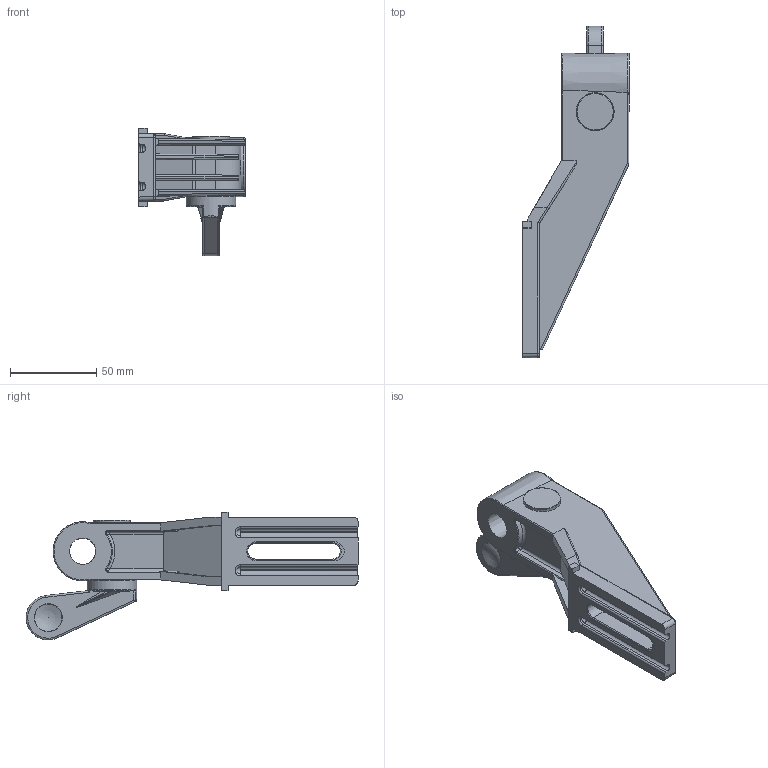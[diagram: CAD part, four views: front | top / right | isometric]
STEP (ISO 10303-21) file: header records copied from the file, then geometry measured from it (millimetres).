
FILE_DESCRIPTION(/* description */ ('Side guide bracket with handle GMB20'),/* implementation_level */ '2;1');
FILE_NAME(/* name */ 'C:\Users\apromt\Desktop\tekeningen\stp\SG1200030001.stp',/* time_stamp */ '2021-11-11T10:32:02+01:00',/* author */ ('Rdgreef'),/* organization */ ('BCK Holland b.v.'),/* preprocessor_version */ 'ST-DEVELOPER v18.1',/* originating_system */ 'Autodesk Inventor 2021',/* authorisation */ '');
FILE_SCHEMA (('AUTOMOTIVE_DESIGN { 1 0 10303 214 3 1 1 }'));
Length unit declared in the file: millimetre
Products named in the file (1): SG1200030001
Bounding box: 61.9 x 192.19 x 74 mm (x, y, z)
Volume: 119543.7 mm3; surface area: 48428 mm2
Topology: 1 solids, 1 shells, 232 faces, 630 edges, 389 vertices
Faces by surface type: plane 88, cylinder 63, bspline 41, torus 21, cone 13, sphere 6
Full cylindrical faces by diameter (mm): 21.5 x1, 22 x1, 28.75 x1
Entity records: 9912 total; most frequent: CARTESIAN_POINT 4293, ORIENTED_EDGE 1228, DIRECTION 1116, EDGE_CURVE 614, AXIS2_PLACEMENT_3D 411, VERTEX_POINT 389, LINE 294, VECTOR 294
